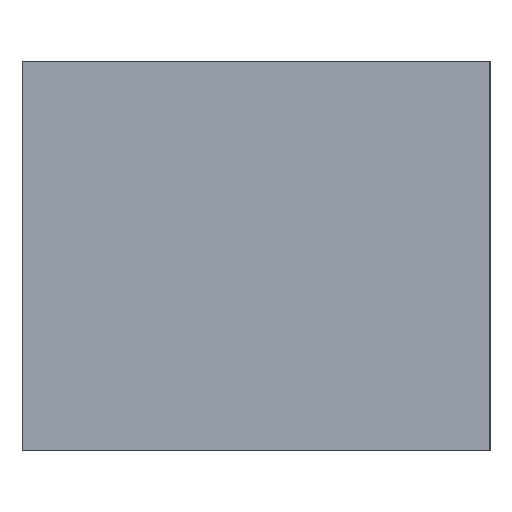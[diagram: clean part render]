
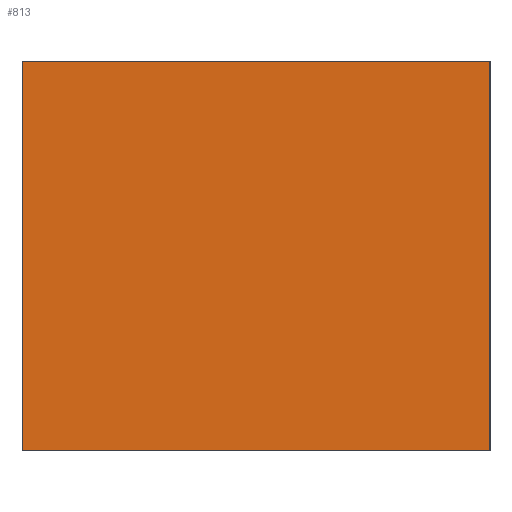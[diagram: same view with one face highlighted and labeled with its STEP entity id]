
A CAD part, left-side view. The second image highlights one B-rep face of the part: STEP entity #813.
In plain terms, the highlighted planar face has unit normal (-1, 0, 0).
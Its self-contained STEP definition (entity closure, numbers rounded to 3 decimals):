
#679=CARTESIAN_POINT('',(-3.048,-2.705,0.0));
#678=VERTEX_POINT('',#679);
#697=CARTESIAN_POINT('',(-3.048,-2.705,4.496));
#696=VERTEX_POINT('',#697);
#705=EDGE_CURVE('',#678,#696,#710,.T.);
#710=LINE('',#679,#712);
#712=VECTOR('',#713,4.496);
#713=DIRECTION('',(0.0,0.0,1.0));
#775=CARTESIAN_POINT('',(-3.048,2.705,0.0));
#774=VERTEX_POINT('',#775);
#785=CARTESIAN_POINT('',(-3.048,2.705,4.496));
#784=VERTEX_POINT('',#785);
#783=EDGE_CURVE('',#784,#774,#788,.T.);
#788=LINE('',#785,#790);
#790=VECTOR('',#791,4.496);
#791=DIRECTION('',(0.0,0.0,-1.0));
#813=ADVANCED_FACE('',(#819),#814,.T.);
#814=PLANE('',#815);
#815=AXIS2_PLACEMENT_3D('',#816,#817,#818);
#816=CARTESIAN_POINT('',(-3.048,2.705,0.0));
#817=DIRECTION('',(-1.0,0.0,0.0));
#818=DIRECTION('',(0.,0.,1.));
#819=FACE_OUTER_BOUND('',#820,.T.);
#820=EDGE_LOOP('',(#821,#831,#841,#851));
#822=EDGE_CURVE('',#678,#774,#827,.T.);
#827=LINE('',#679,#829);
#829=VECTOR('',#830,5.41);
#830=DIRECTION('',(0.0,1.0,0.0));
#821=ORIENTED_EDGE('',*,*,#822,.F.);
#831=ORIENTED_EDGE('',*,*,#705,.T.);
#842=EDGE_CURVE('',#784,#696,#847,.T.);
#847=LINE('',#785,#849);
#849=VECTOR('',#850,5.41);
#850=DIRECTION('',(0.0,-1.0,0.0));
#841=ORIENTED_EDGE('',*,*,#842,.F.);
#851=ORIENTED_EDGE('',*,*,#783,.T.);
